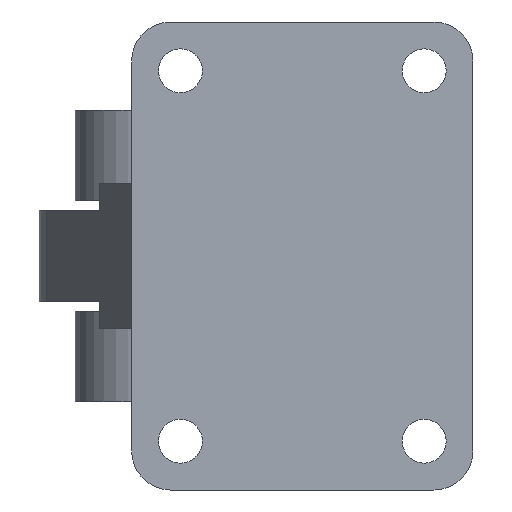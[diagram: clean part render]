
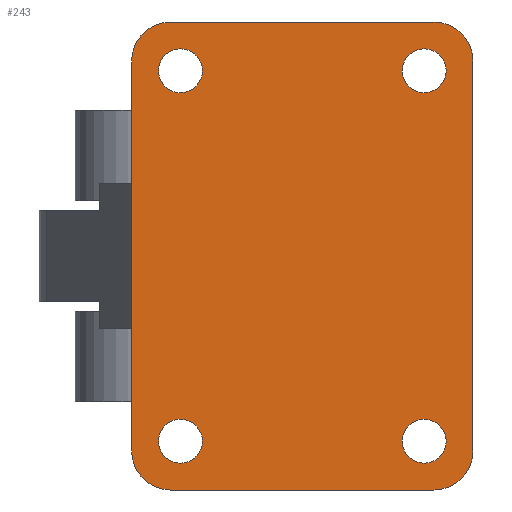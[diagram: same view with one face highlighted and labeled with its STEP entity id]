
A CAD part, front view. The second image highlights one B-rep face of the part: STEP entity #243.
In plain terms, the highlighted planar face has unit normal (0, -1, 0).
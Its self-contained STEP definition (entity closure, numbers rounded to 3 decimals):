
#28 = VERTEX_POINT ( 'NONE', #729 ) ;
#30 = EDGE_CURVE ( 'NONE', #28, #33, #717, .T. ) ;
#33 = VERTEX_POINT ( 'NONE', #702 ) ;
#46 = EDGE_CURVE ( 'NONE', #53, #56, #721, .T. ) ;
#47 = EDGE_CURVE ( 'NONE', #59, #62, #723, .T. ) ;
#53 = VERTEX_POINT ( 'NONE', #663 ) ;
#56 = VERTEX_POINT ( 'NONE', #662 ) ;
#59 = VERTEX_POINT ( 'NONE', #696 ) ;
#62 = VERTEX_POINT ( 'NONE', #695 ) ;
#74 = VERTEX_POINT ( 'NONE', #777 ) ;
#75 = VERTEX_POINT ( 'NONE', #732 ) ;
#80 = EDGE_CURVE ( 'NONE', #74, #75, #750, .T. ) ;
#116 = VERTEX_POINT ( 'NONE', #840 ) ;
#209 = EDGE_LOOP ( 'NONE', ( #256, #331 ) ) ;
#210 = EDGE_LOOP ( 'NONE', ( #229, #230 ) ) ;
#211 = ORIENTED_EDGE ( 'NONE', *, *, #231, .T. ) ;
#218 = EDGE_CURVE ( 'NONE', #75, #74, #1033, .T. ) ;
#222 = VERTEX_POINT ( 'NONE', #1017 ) ;
#224 = EDGE_CURVE ( 'NONE', #261, #222, #1072, .T. ) ;
#228 = EDGE_CURVE ( 'NONE', #333, #253, #1054, .T. ) ;
#229 = ORIENTED_EDGE ( 'NONE', *, *, #218, .T. ) ;
#230 = ORIENTED_EDGE ( 'NONE', *, *, #80, .T. ) ;
#231 = EDGE_CURVE ( 'NONE', #268, #222, #1013, .T. ) ;
#240 = ORIENTED_EDGE ( 'NONE', *, *, #224, .F. ) ;
#241 = ORIENTED_EDGE ( 'NONE', *, *, #328, .F. ) ;
#242 = ORIENTED_EDGE ( 'NONE', *, *, #323, .T. ) ;
#243 = ADVANCED_FACE ( 'NONE', ( #1029, #1028, #1037, #1036, #1035 ), #1034, .F. ) ;
#253 = VERTEX_POINT ( 'NONE', #1154 ) ;
#254 = ORIENTED_EDGE ( 'NONE', *, *, #46, .T. ) ;
#256 = ORIENTED_EDGE ( 'NONE', *, *, #303, .T. ) ;
#257 = EDGE_LOOP ( 'NONE', ( #285, #254 ) ) ;
#261 = VERTEX_POINT ( 'NONE', #1103 ) ;
#266 = VERTEX_POINT ( 'NONE', #1155 ) ;
#268 = VERTEX_POINT ( 'NONE', #1115 ) ;
#269 = VERTEX_POINT ( 'NONE', #1152 ) ;
#284 = EDGE_LOOP ( 'NONE', ( #241, #242, #332, #211, #240, #288, #318, #319 ) ) ;
#285 = ORIENTED_EDGE ( 'NONE', *, *, #312, .T. ) ;
#288 = ORIENTED_EDGE ( 'NONE', *, *, #289, .T. ) ;
#289 = EDGE_CURVE ( 'NONE', #261, #253, #1158, .T. ) ;
#299 = EDGE_CURVE ( 'NONE', #33, #28, #1180, .T. ) ;
#303 = EDGE_CURVE ( 'NONE', #62, #59, #1204, .T. ) ;
#312 = EDGE_CURVE ( 'NONE', #56, #53, #1200, .T. ) ;
#318 = ORIENTED_EDGE ( 'NONE', *, *, #228, .F. ) ;
#319 = ORIENTED_EDGE ( 'NONE', *, *, #320, .T. ) ;
#320 = EDGE_CURVE ( 'NONE', #333, #269, #1193, .T. ) ;
#323 = EDGE_CURVE ( 'NONE', #116, #266, #1240, .T. ) ;
#325 = ORIENTED_EDGE ( 'NONE', *, *, #30, .T. ) ;
#327 = EDGE_CURVE ( 'NONE', #268, #266, #1223, .T. ) ;
#328 = EDGE_CURVE ( 'NONE', #116, #269, #1239, .T. ) ;
#330 = EDGE_LOOP ( 'NONE', ( #334, #325 ) ) ;
#331 = ORIENTED_EDGE ( 'NONE', *, *, #47, .T. ) ;
#332 = ORIENTED_EDGE ( 'NONE', *, *, #327, .F. ) ;
#333 = VERTEX_POINT ( 'NONE', #1226 ) ;
#334 = ORIENTED_EDGE ( 'NONE', *, *, #299, .T. ) ;
#634 = DIRECTION ( 'NONE',  ( 0., 0., 1. ) ) ;
#635 = DIRECTION ( 'NONE',  ( 0., 1., 0. ) ) ;
#636 = AXIS2_PLACEMENT_3D ( 'NONE', #722, #635, #634 ) ;
#660 = DIRECTION ( 'NONE',  ( 0., 0., 1. ) ) ;
#661 = DIRECTION ( 'NONE',  ( 0., 1., 0. ) ) ;
#662 = CARTESIAN_POINT ( 'NONE',  ( 25., -15., -33.5 ) ) ;
#663 = CARTESIAN_POINT ( 'NONE',  ( 25., -15., -42.5 ) ) ;
#695 = CARTESIAN_POINT ( 'NONE',  ( -25., -15., 42.5 ) ) ;
#696 = CARTESIAN_POINT ( 'NONE',  ( -25., -15., 33.5 ) ) ;
#702 = CARTESIAN_POINT ( 'NONE',  ( -25., -15., -33.5 ) ) ;
#715 = CARTESIAN_POINT ( 'NONE',  ( -25., -15., -38. ) ) ;
#716 = AXIS2_PLACEMENT_3D ( 'NONE', #715, #661, #660 ) ;
#717 = CIRCLE ( 'NONE', #716, 4.5 ) ;
#718 = DIRECTION ( 'NONE',  ( 0., 1., 0. ) ) ;
#719 = CARTESIAN_POINT ( 'NONE',  ( 25., -15., -38. ) ) ;
#720 = AXIS2_PLACEMENT_3D ( 'NONE', #719, #718, #724 ) ;
#721 = CIRCLE ( 'NONE', #720, 4.5 ) ;
#722 = CARTESIAN_POINT ( 'NONE',  ( -25., -15., 38. ) ) ;
#723 = CIRCLE ( 'NONE', #636, 4.5 ) ;
#724 = DIRECTION ( 'NONE',  ( 0., 0., 1. ) ) ;
#729 = CARTESIAN_POINT ( 'NONE',  ( -25., -15., -42.5 ) ) ;
#732 = CARTESIAN_POINT ( 'NONE',  ( 25., -15., 42.5 ) ) ;
#749 = AXIS2_PLACEMENT_3D ( 'NONE', #771, #770, #769 ) ;
#750 = CIRCLE ( 'NONE', #749, 4.5 ) ;
#769 = DIRECTION ( 'NONE',  ( 0., 0., 1. ) ) ;
#770 = DIRECTION ( 'NONE',  ( 0., 1., 0. ) ) ;
#771 = CARTESIAN_POINT ( 'NONE',  ( 25., -15., 38. ) ) ;
#777 = CARTESIAN_POINT ( 'NONE',  ( 25., -15., 33.5 ) ) ;
#840 = CARTESIAN_POINT ( 'NONE',  ( -35., -15., -40. ) ) ;
#1013 = CIRCLE ( 'NONE', #1046, 8. ) ;
#1014 = DIRECTION ( 'NONE',  ( 1., 0., 0. ) ) ;
#1017 = CARTESIAN_POINT ( 'NONE',  ( 35., -15., -40. ) ) ;
#1027 = DIRECTION ( 'NONE',  ( 0., 0., 1. ) ) ;
#1028 = FACE_BOUND ( 'NONE', #209, .T. ) ;
#1029 = FACE_BOUND ( 'NONE', #210, .T. ) ;
#1033 = CIRCLE ( 'NONE', #1047, 4.5 ) ;
#1034 = PLANE ( 'NONE',  #1051 ) ;
#1035 = FACE_OUTER_BOUND ( 'NONE', #284, .T. ) ;
#1036 = FACE_BOUND ( 'NONE', #330, .T. ) ;
#1037 = FACE_BOUND ( 'NONE', #257, .T. ) ;
#1041 = DIRECTION ( 'NONE',  ( 0., 0., -1. ) ) ;
#1042 = VECTOR ( 'NONE', #1041, 1000. ) ;
#1043 = DIRECTION ( 'NONE',  ( 0., 0., 1. ) ) ;
#1044 = DIRECTION ( 'NONE',  ( 0., -1., 0. ) ) ;
#1045 = CARTESIAN_POINT ( 'NONE',  ( 27., -15., -40. ) ) ;
#1046 = AXIS2_PLACEMENT_3D ( 'NONE', #1045, #1044, #1043 ) ;
#1047 = AXIS2_PLACEMENT_3D ( 'NONE', #1048, #1053, #1027 ) ;
#1048 = CARTESIAN_POINT ( 'NONE',  ( 25., -15., 38. ) ) ;
#1050 = CARTESIAN_POINT ( 'NONE',  ( -35., -15., 48. ) ) ;
#1051 = AXIS2_PLACEMENT_3D ( 'NONE', #1050, #1058, #1057 ) ;
#1053 = DIRECTION ( 'NONE',  ( 0., 1., 0. ) ) ;
#1054 = LINE ( 'NONE', #1068, #1067 ) ;
#1057 = DIRECTION ( 'NONE',  ( 0., 0., 1. ) ) ;
#1058 = DIRECTION ( 'NONE',  ( 0., 1., 0. ) ) ;
#1067 = VECTOR ( 'NONE', #1014, 1000. ) ;
#1068 = CARTESIAN_POINT ( 'NONE',  ( -35., -15., 48. ) ) ;
#1071 = CARTESIAN_POINT ( 'NONE',  ( 35., -15., -48. ) ) ;
#1072 = LINE ( 'NONE', #1071, #1042 ) ;
#1081 = AXIS2_PLACEMENT_3D ( 'NONE', #1145, #1144, #1143 ) ;
#1103 = CARTESIAN_POINT ( 'NONE',  ( 35., -15., 40. ) ) ;
#1115 = CARTESIAN_POINT ( 'NONE',  ( 27., -15., -48. ) ) ;
#1143 = DIRECTION ( 'NONE',  ( 0., 0., 1. ) ) ;
#1144 = DIRECTION ( 'NONE',  ( 0., -1., 0. ) ) ;
#1145 = CARTESIAN_POINT ( 'NONE',  ( 27., -15., 40. ) ) ;
#1152 = CARTESIAN_POINT ( 'NONE',  ( -35., -15., 40. ) ) ;
#1154 = CARTESIAN_POINT ( 'NONE',  ( 27., -15., 48. ) ) ;
#1155 = CARTESIAN_POINT ( 'NONE',  ( -27., -15., -48. ) ) ;
#1158 = CIRCLE ( 'NONE', #1081, 8. ) ;
#1164 = DIRECTION ( 'NONE',  ( 0., 0., 1. ) ) ;
#1171 = DIRECTION ( 'NONE',  ( 0., 0., 1. ) ) ;
#1174 = DIRECTION ( 'NONE',  ( 0., 1., 0. ) ) ;
#1179 = AXIS2_PLACEMENT_3D ( 'NONE', #1186, #1174, #1164 ) ;
#1180 = CIRCLE ( 'NONE', #1179, 4.5 ) ;
#1186 = CARTESIAN_POINT ( 'NONE',  ( -25., -15., -38. ) ) ;
#1189 = DIRECTION ( 'NONE',  ( 0., 0., 1. ) ) ;
#1190 = DIRECTION ( 'NONE',  ( 0., -1., 0. ) ) ;
#1191 = CARTESIAN_POINT ( 'NONE',  ( -27., -15., 40. ) ) ;
#1192 = AXIS2_PLACEMENT_3D ( 'NONE', #1191, #1190, #1189 ) ;
#1193 = CIRCLE ( 'NONE', #1192, 8. ) ;
#1196 = DIRECTION ( 'NONE',  ( 0., 0., 1. ) ) ;
#1197 = DIRECTION ( 'NONE',  ( 0., 1., 0. ) ) ;
#1198 = CARTESIAN_POINT ( 'NONE',  ( 25., -15., -38. ) ) ;
#1199 = AXIS2_PLACEMENT_3D ( 'NONE', #1198, #1197, #1196 ) ;
#1200 = CIRCLE ( 'NONE', #1199, 4.5 ) ;
#1201 = DIRECTION ( 'NONE',  ( 0., 1., 0. ) ) ;
#1202 = CARTESIAN_POINT ( 'NONE',  ( -25., -15., 38. ) ) ;
#1203 = AXIS2_PLACEMENT_3D ( 'NONE', #1202, #1201, #1171 ) ;
#1204 = CIRCLE ( 'NONE', #1203, 4.5 ) ;
#1220 = CARTESIAN_POINT ( 'NONE',  ( -27., -15., -40. ) ) ;
#1223 = LINE ( 'NONE', #1242, #1237 ) ;
#1226 = CARTESIAN_POINT ( 'NONE',  ( -27., -15., 48. ) ) ;
#1227 = DIRECTION ( 'NONE',  ( 0., 0., 1. ) ) ;
#1228 = VECTOR ( 'NONE', #1227, 1000. ) ;
#1229 = DIRECTION ( 'NONE',  ( -1., 0., 0. ) ) ;
#1237 = VECTOR ( 'NONE', #1229, 1000. ) ;
#1238 = CARTESIAN_POINT ( 'NONE',  ( -35., -15., -48. ) ) ;
#1239 = LINE ( 'NONE', #1238, #1228 ) ;
#1240 = CIRCLE ( 'NONE', #1241, 8. ) ;
#1241 = AXIS2_PLACEMENT_3D ( 'NONE', #1220, #1248, #1247 ) ;
#1242 = CARTESIAN_POINT ( 'NONE',  ( -35., -15., -48. ) ) ;
#1247 = DIRECTION ( 'NONE',  ( 0., 0., 1. ) ) ;
#1248 = DIRECTION ( 'NONE',  ( 0., -1., 0. ) ) ;
